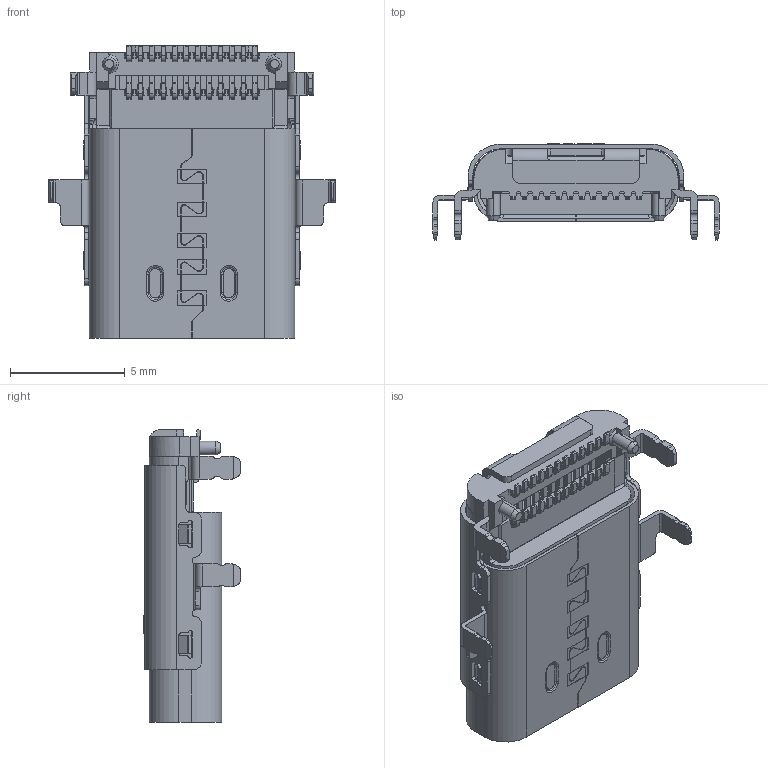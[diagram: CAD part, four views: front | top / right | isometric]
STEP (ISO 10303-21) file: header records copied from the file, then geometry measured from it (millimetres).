
FILE_DESCRIPTION (( 'STEP AP214' ), '1' );
FILE_NAME ('U5144-24PN0.89C12.75L.STEP', '2026-06-02T07:08:21', ( '' ), ( '' ), 'SwSTEP 2.0', 'SolidWorks 2024', '' );
FILE_SCHEMA (( 'AUTOMOTIVE_DESIGN' ));
Length unit declared in the file: millimetre
Products named in the file (1): U5144-24PN0.89C12.75L
Bounding box: 12.46 x 4.2 x 12.75 mm (x, y, z)
Volume: 212 mm3; surface area: 1074.7 mm2
Topology: 1 solids, 16 shells, 1995 faces, 5908 edges, 3905 vertices
Faces by surface type: plane 1361, cylinder 510, torus 54, cone 43, bspline 27
Entity records: 68808 total; most frequent: CARTESIAN_POINT 14844, ORIENTED_EDGE 11816, DIRECTION 10641, EDGE_CURVE 5908, VECTOR 4361, LINE 4361, VERTEX_POINT 3905, AXIS2_PLACEMENT_3D 3140
